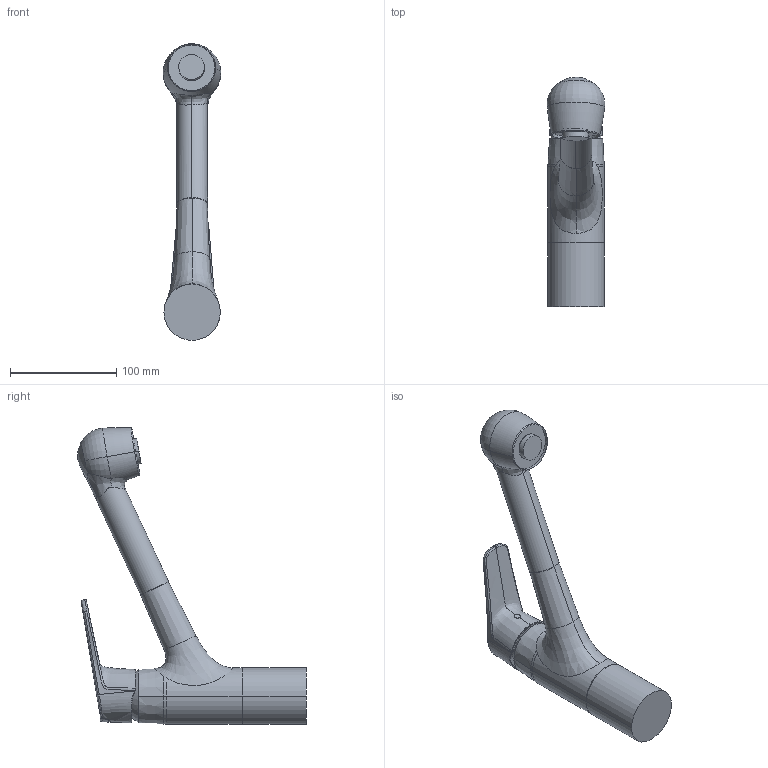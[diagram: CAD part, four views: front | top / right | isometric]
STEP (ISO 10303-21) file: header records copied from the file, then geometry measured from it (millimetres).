
FILE_DESCRIPTION (( 'STEP AP203' ), '1' );
FILE_NAME ('1832FG(2018).STEP', '2019-06-03T05:47:49', ( '' ), ( '' ), 'SwSTEP 2.0', 'SolidWorks 2016', '' );
FILE_SCHEMA (( 'CONFIG_CONTROL_DESIGN' ));
Length unit declared in the file: millimetre
Products named in the file (1): 1832FG(2018)
Bounding box: 54.27 x 215.21 x 278.84 mm (x, y, z)
Volume: 678213.7 mm3; surface area: 70127.9 mm2
Topology: 1 solids, 1 shells, 120 faces, 331 edges, 219 vertices
Faces by surface type: bspline 62, cylinder 26, torus 16, plane 11, cone 4, sphere 1
Entity records: 22845 total; most frequent: CARTESIAN_POINT 20339, ORIENTED_EDGE 662, EDGE_CURVE 331, DIRECTION 287, B_SPLINE_CURVE_WITH_KNOTS 220, VERTEX_POINT 219, AXIS2_PLACEMENT_3D 132, EDGE_LOOP 126
